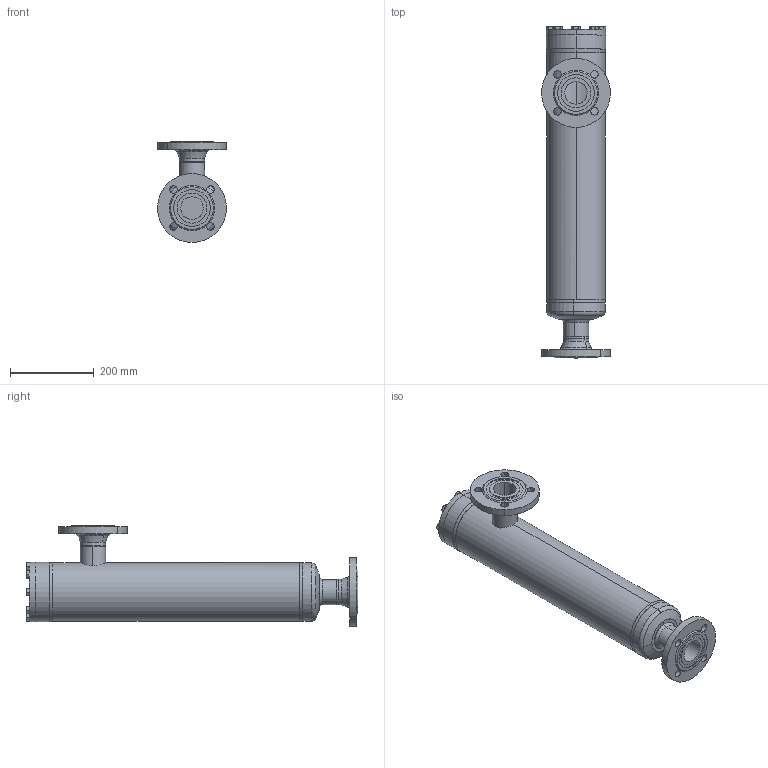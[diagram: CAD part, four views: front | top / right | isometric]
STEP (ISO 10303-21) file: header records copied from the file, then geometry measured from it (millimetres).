
FILE_DESCRIPTION (( 'STEP AP214' ), '1' );
FILE_NAME ('FT56720D15-DN50-4_DIN-FL-N_PS40.STEP', '2010-09-13T08:52:02', ( 'Eckhard Grams' ), ( 'AWP Kälte Klima Armaturen GmbH' ), 'SwSTEP 2.0', 'SolidWorks 2002296', '' );
FILE_SCHEMA (( 'AUTOMOTIVE_DESIGN' ));
Length unit declared in the file: millimetre
Products named in the file (18): FT56720D15-DN50-4_DIN-FL-N_PS40; FT56700D15-DN50-4_PS40_Standard; FT Deckel-Schrauben-DN20-50_PS25_Standard; Deckel56700E15-DN20-50_PS40_Standard; Sechskantschraube-DIN933_M12x 30; Geh-kpl-FT-DN50-4_Standard; Gehäuse-FT-DN20-50_PS40_50-4; FT Boden-Führungsrohr DN50_(20-50)_PS25_Standard; Führungsrohr-FT-DN20-50_DN 50; Boden-FT-DN20-80_DN 20 bis 50-4 PN 40; bead-Bo-Fü-20-50_Standard; Kopfstück-FT-DN20-50_PS40_Standard; Rohrstutzen-FT-DN20-80_DN 50 (20-50); bead50-Geh-Bo1_Standard; bead50-Geh-Ko4_Standard; Flansch-DIN2635-Nut_PS40_DIN-Flansch-DN050_PS40-Nut; bead56720-50-4a_Standard; bead56720-50-4b_Standard
Assembly tree (25 placements, depth 5):
  FT56720D15-DN50-4_DIN-FL-N_PS40
    Flansch-DIN2635-Nut_PS40_DIN-Flansch-DN050_PS40-Nut  x2
    bead56720-50-4b_Standard
    bead56720-50-4a_Standard
    FT56700D15-DN50-4_PS40_Standard
      FT Deckel-Schrauben-DN20-50_PS25_Standard
        Sechskantschraube-DIN933_M12x 30  x8
        Deckel56700E15-DN20-50_PS40_Standard
      Geh-kpl-FT-DN50-4_Standard
        Gehäuse-FT-DN20-50_PS40_50-4
        Kopfstück-FT-DN20-50_PS40_Standard
        bead50-Geh-Bo1_Standard
        FT Boden-Führungsrohr DN50_(20-50)_PS25_Standard
          Führungsrohr-FT-DN20-50_DN 50
          Boden-FT-DN20-80_DN 20 bis 50-4 PN 40
          bead-Bo-Fü-20-50_Standard
        Rohrstutzen-FT-DN20-80_DN 50 (20-50)
        bead50-Geh-Ko4_Standard
Bounding box: 164.37 x 794.28 x 241.19 mm (x, y, z)
Volume: 3150132 mm3; surface area: 877774.8 mm2
Topology: 21 solids, 21 shells, 481 faces, 1078 edges, 642 vertices
Faces by surface type: cone 190, cylinder 145, plane 110, bspline 20, torus 12, sphere 4
Entity records: 15087 total; most frequent: CARTESIAN_POINT 8053, DIRECTION 1378, ORIENTED_EDGE 1232, EDGE_CURVE 616, AXIS2_PLACEMENT_3D 592, VERTEX_POINT 380, EDGE_LOOP 338, CIRCLE 306
